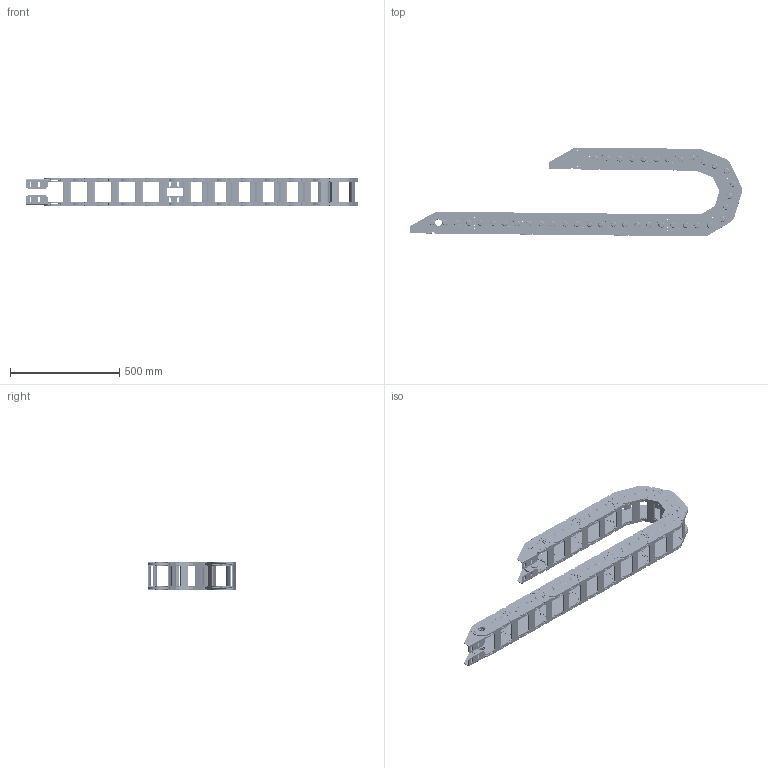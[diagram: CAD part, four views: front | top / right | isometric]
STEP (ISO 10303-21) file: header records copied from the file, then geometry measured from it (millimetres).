
FILE_DESCRIPTION((''),'2;1');
FILE_NAME('80GD-75-R150_ASM','2022-07-31T15:00:09',('admin'),(''),'CREO PARAMETRIC BY PTC INC, 2021164','CREO PARAMETRIC BY PTC INC, 2021164','');
FILE_SCHEMA(('CONFIG_CONTROL_DESIGN','GEOMETRIC_VALIDATION_PROPERTIES_MIM'));
Length unit declared in the file: millimetre
Products named in the file (5): 80-A; 80-B; 80-LTT; 80-LTT-2; 80GD-75-R150_ASM
Assembly tree (22 placements, depth 2):
  80GD-75-R150_ASM
    80-A  x10
    80-B  x10
    80-LTT
    80-LTT-2
Bounding box: 1516.98 x 405.92 x 130.2 mm (x, y, z)
Volume: 9285897.7 mm3; surface area: 2932451.4 mm2
Topology: 84 solids, 84 shells, 3560 faces, 9646 edges, 6538 vertices
Faces by surface type: cylinder 1580, plane 1420, torus 400, cone 160
Entity records: 21381 total; most frequent: DIRECTION 3082, CARTESIAN_POINT 2846, ORIENTED_EDGE 2732, EDGE_CURVE 1366, AXIS2_PLACEMENT_3D 1189, PRESENTATION_STYLE_ASSIGNMENT 1114, STYLED_ITEM 1114, VERTEX_POINT 922
